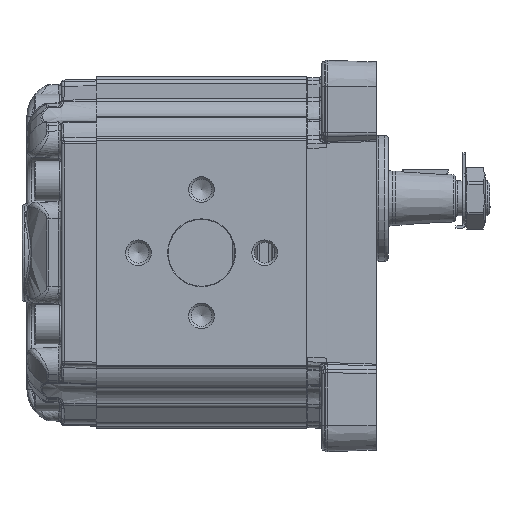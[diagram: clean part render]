
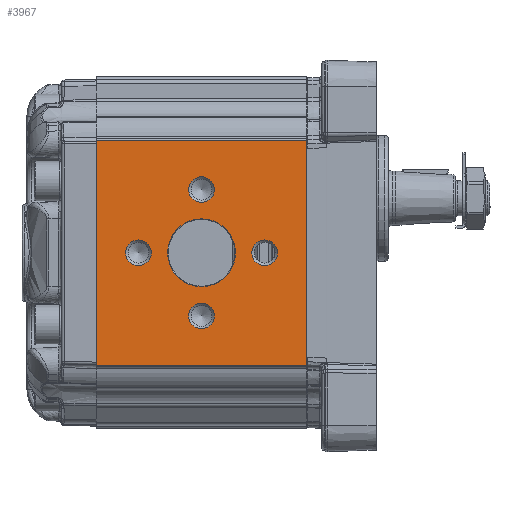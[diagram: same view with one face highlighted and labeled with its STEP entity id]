
A CAD part, left-side view. The second image highlights one B-rep face of the part: STEP entity #3967.
In plain terms, the highlighted planar face has unit normal (-1, 0, 0).
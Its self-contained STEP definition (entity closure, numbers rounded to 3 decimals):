
#3967 = ADVANCED_FACE( '', ( #10381, #10382, #10383, #10384, #10385, #10386 ), #10387, .T. );
#10381 = FACE_BOUND( '', #23861, .T. );
#10382 = FACE_BOUND( '', #23862, .T. );
#10383 = FACE_BOUND( '', #23863, .T. );
#10384 = FACE_BOUND( '', #23864, .T. );
#10385 = FACE_BOUND( '', #23865, .T. );
#10386 = FACE_OUTER_BOUND( '', #23866, .T. );
#10387 = PLANE( '', #23867 );
#23861 = EDGE_LOOP( '', ( #59715 ) );
#23862 = EDGE_LOOP( '', ( #59716 ) );
#23863 = EDGE_LOOP( '', ( #59717 ) );
#23864 = EDGE_LOOP( '', ( #59718 ) );
#23865 = EDGE_LOOP( '', ( #59719 ) );
#23866 = EDGE_LOOP( '', ( #59720, #59721, #59722, #59723 ) );
#23867 = AXIS2_PLACEMENT_3D( '', #59724, #59725, #59726 );
#59715 = ORIENTED_EDGE( '', *, *, #81883, .T. );
#59716 = ORIENTED_EDGE( '', *, *, #81884, .T. );
#59717 = ORIENTED_EDGE( '', *, *, #79025, .T. );
#59718 = ORIENTED_EDGE( '', *, *, #81885, .T. );
#59719 = ORIENTED_EDGE( '', *, *, #81886, .T. );
#59720 = ORIENTED_EDGE( '', *, *, #80084, .F. );
#59721 = ORIENTED_EDGE( '', *, *, #81639, .T. );
#59722 = ORIENTED_EDGE( '', *, *, #80192, .F. );
#59723 = ORIENTED_EDGE( '', *, *, #81323, .T. );
#59724 = CARTESIAN_POINT( '', ( -57.5, -142.954, -84.819 ) );
#59725 = DIRECTION( '', ( -1., 0., 0. ) );
#59726 = DIRECTION( '', ( 0., 0., -1. ) );
#79025 = EDGE_CURVE( '', #89392, #89392, #89393, .F. );
#80084 = EDGE_CURVE( '', #91331, #91333, #91334, .T. );
#80192 = EDGE_CURVE( '', #91526, #91528, #91529, .T. );
#81323 = EDGE_CURVE( '', #91526, #91333, #93436, .F. );
#81639 = EDGE_CURVE( '', #91331, #91528, #93944, .F. );
#81883 = EDGE_CURVE( '', #94349, #94349, #94350, .F. );
#81884 = EDGE_CURVE( '', #94351, #94351, #94352, .F. );
#81885 = EDGE_CURVE( '', #94353, #94353, #94354, .F. );
#81886 = EDGE_CURVE( '', #94355, #94355, #94356, .F. );
#89392 = VERTEX_POINT( '', #104638 );
#89393 = CIRCLE( '', #104639, 5.188 );
#91331 = VERTEX_POINT( '', #109456 );
#91333 = VERTEX_POINT( '', #109458 );
#91334 = LINE( '', #109459, #109460 );
#91526 = VERTEX_POINT( '', #109815 );
#91528 = VERTEX_POINT( '', #109817 );
#91529 = LINE( '', #109818, #109819 );
#93436 = LINE( '', #115023, #115024 );
#93944 = LINE( '', #116655, #116656 );
#94349 = VERTEX_POINT( '', #117793 );
#94350 = CIRCLE( '', #117794, 5.188 );
#94351 = VERTEX_POINT( '', #117795 );
#94352 = CIRCLE( '', #117796, 5.188 );
#94353 = VERTEX_POINT( '', #117797 );
#94354 = CIRCLE( '', #117798, 5.188 );
#94355 = VERTEX_POINT( '', #117799 );
#94356 = CIRCLE( '', #117800, 13.7 );
#104638 = CARTESIAN_POINT( '', ( -57.5, 42.5, -30.688 ) );
#104639 = AXIS2_PLACEMENT_3D( '', #144030, #144031, #144032 );
#109456 = CARTESIAN_POINT( '', ( -57.5, 85., -45.5 ) );
#109458 = CARTESIAN_POINT( '', ( -57.5, 85., 45.5 ) );
#109459 = CARTESIAN_POINT( '', ( -57.5, 85., -84.819 ) );
#109460 = VECTOR( '', #144816, 1000. );
#109815 = CARTESIAN_POINT( '', ( -57.5, 0., 45.5 ) );
#109817 = CARTESIAN_POINT( '', ( -57.5, 0., -45.5 ) );
#109818 = CARTESIAN_POINT( '', ( -57.5, 0., -44.978 ) );
#109819 = VECTOR( '', #144957, 1000. );
#115023 = CARTESIAN_POINT( '', ( -57.5, -142.954, 45.5 ) );
#115024 = VECTOR( '', #145491, 1000. );
#116655 = CARTESIAN_POINT( '', ( -57.5, -142.954, -45.5 ) );
#116656 = VECTOR( '', #145643, 1000. );
#117793 = CARTESIAN_POINT( '', ( -57.5, 42.5, 20.312 ) );
#117794 = AXIS2_PLACEMENT_3D( '', #145734, #145735, #145736 );
#117795 = CARTESIAN_POINT( '', ( -57.5, 68., -5.188 ) );
#117796 = AXIS2_PLACEMENT_3D( '', #145737, #145738, #145739 );
#117797 = CARTESIAN_POINT( '', ( -57.5, 17., -5.188 ) );
#117798 = AXIS2_PLACEMENT_3D( '', #145740, #145741, #145742 );
#117799 = CARTESIAN_POINT( '', ( -57.5, 42.5, -13.7 ) );
#117800 = AXIS2_PLACEMENT_3D( '', #145743, #145744, #145745 );
#144030 = CARTESIAN_POINT( '', ( -57.5, 42.5, -25.5 ) );
#144031 = DIRECTION( '', ( -1., 0., 0. ) );
#144032 = DIRECTION( '', ( 0., 0., -1. ) );
#144816 = DIRECTION( '', ( 0., 0., 1. ) );
#144957 = DIRECTION( '', ( 0., 0., -1. ) );
#145491 = DIRECTION( '', ( 0., -1., 0. ) );
#145643 = DIRECTION( '', ( 0., 1., 0. ) );
#145734 = CARTESIAN_POINT( '', ( -57.5, 42.5, 25.5 ) );
#145735 = DIRECTION( '', ( -1., 0., 0. ) );
#145736 = DIRECTION( '', ( 0., 0., -1. ) );
#145737 = CARTESIAN_POINT( '', ( -57.5, 68., 0. ) );
#145738 = DIRECTION( '', ( -1., 0., 0. ) );
#145739 = DIRECTION( '', ( 0., 0., -1. ) );
#145740 = CARTESIAN_POINT( '', ( -57.5, 17., 0. ) );
#145741 = DIRECTION( '', ( -1., 0., 0. ) );
#145742 = DIRECTION( '', ( 0., 0., -1. ) );
#145743 = CARTESIAN_POINT( '', ( -57.5, 42.5, 0. ) );
#145744 = DIRECTION( '', ( -1., 0., 0. ) );
#145745 = DIRECTION( '', ( 0., 0., -1. ) );
